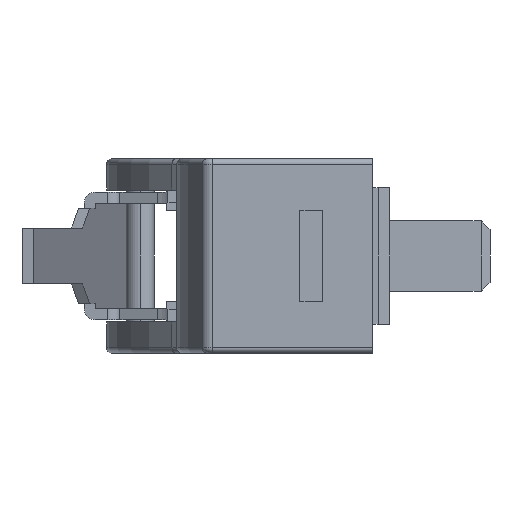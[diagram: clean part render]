
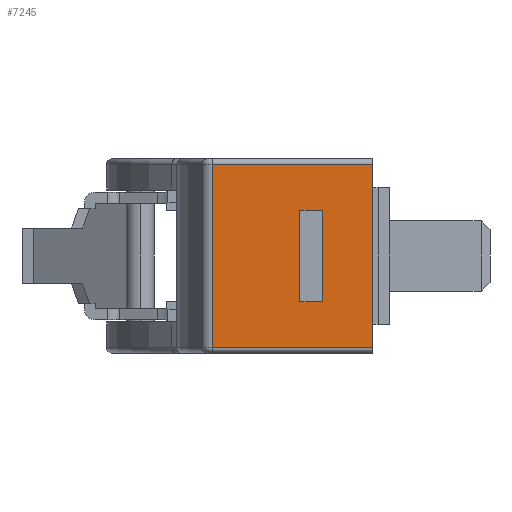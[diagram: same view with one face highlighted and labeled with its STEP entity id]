
A CAD part, left-side view. The second image highlights one B-rep face of the part: STEP entity #7245.
In plain terms, the highlighted planar face has unit normal (-1, 0, 0).
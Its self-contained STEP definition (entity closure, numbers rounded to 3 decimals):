
#894 = CARTESIAN_POINT ( 'NONE',  ( -35.2, 2.7, 4.1 ) ) ;
#895 = CARTESIAN_POINT ( 'NONE',  ( -35.2, 10.561, -8.2 ) ) ;
#896 = CARTESIAN_POINT ( 'NONE',  ( -35.2, 0.7, 4.1 ) ) ;
#897 = CARTESIAN_POINT ( 'NONE',  ( -35.2, 2.7, -4.1 ) ) ;
#898 = LINE ( 'NONE', #897, #920 ) ;
#909 = DIRECTION ( 'NONE',  ( 0., 0., 1. ) ) ;
#910 = VECTOR ( 'NONE', #909, 1000. ) ;
#919 = DIRECTION ( 'NONE',  ( 0., 1., 0. ) ) ;
#920 = VECTOR ( 'NONE', #919, 1000. ) ;
#921 = CARTESIAN_POINT ( 'NONE',  ( -35.2, 10.561, 8.2 ) ) ;
#992 = CARTESIAN_POINT ( 'NONE',  ( -35.2, 2.7, -4.1 ) ) ;
#993 = CARTESIAN_POINT ( 'NONE',  ( -35.2, 0.7, -4.1 ) ) ;
#994 = DIRECTION ( 'NONE',  ( 0., 0., -1. ) ) ;
#995 = VECTOR ( 'NONE', #994, 1000. ) ;
#996 = CARTESIAN_POINT ( 'NONE',  ( -35.2, 0.7, 4.1 ) ) ;
#997 = LINE ( 'NONE', #996, #995 ) ;
#1038 = DIRECTION ( 'NONE',  ( 0., 0., -1. ) ) ;
#1039 = VECTOR ( 'NONE', #1038, 1000. ) ;
#1040 = CARTESIAN_POINT ( 'NONE',  ( -35.2, 10.561, 8.7 ) ) ;
#1041 = LINE ( 'NONE', #1040, #1039 ) ;
#1085 = CARTESIAN_POINT ( 'NONE',  ( -35.2, 2.7, 4.1 ) ) ;
#1086 = LINE ( 'NONE', #1085, #910 ) ;
#1088 = CARTESIAN_POINT ( 'NONE',  ( -35.2, -3.8, -8.2 ) ) ;
#3017 = DIRECTION ( 'NONE',  ( 0., 0., -1. ) ) ;
#3018 = DIRECTION ( 'NONE',  ( 1., 0., 0. ) ) ;
#3019 = CARTESIAN_POINT ( 'NONE',  ( -35.2, 10.561, 8.7 ) ) ;
#3021 = AXIS2_PLACEMENT_3D ( 'NONE', #3019, #3018, #3017 ) ;
#3022 = PLANE ( 'NONE',  #3021 ) ;
#3023 = FACE_BOUND ( 'NONE', #7258, .T. ) ;
#3024 = FACE_OUTER_BOUND ( 'NONE', #7364, .T. ) ;
#3067 = CARTESIAN_POINT ( 'NONE',  ( -35.2, 2.7, 4.1 ) ) ;
#3068 = LINE ( 'NONE', #3067, #3086 ) ;
#3069 = DIRECTION ( 'NONE',  ( 0., 1., 0. ) ) ;
#3070 = VECTOR ( 'NONE', #3069, 1000. ) ;
#3071 = CARTESIAN_POINT ( 'NONE',  ( -35.2, 10.561, 8.2 ) ) ;
#3072 = LINE ( 'NONE', #3071, #3070 ) ;
#3085 = DIRECTION ( 'NONE',  ( 0., -1., 0. ) ) ;
#3086 = VECTOR ( 'NONE', #3085, 1000. ) ;
#3087 = CARTESIAN_POINT ( 'NONE',  ( -35.2, -3.8, 8.2 ) ) ;
#3088 = DIRECTION ( 'NONE',  ( 0., 0., -1. ) ) ;
#3089 = VECTOR ( 'NONE', #3088, 1000. ) ;
#3090 = CARTESIAN_POINT ( 'NONE',  ( -35.2, -3.8, 8.7 ) ) ;
#3091 = LINE ( 'NONE', #3090, #3089 ) ;
#3092 = DIRECTION ( 'NONE',  ( 0., -1., 0. ) ) ;
#3093 = VECTOR ( 'NONE', #3092, 1000. ) ;
#3094 = CARTESIAN_POINT ( 'NONE',  ( -35.2, 10.561, -8.2 ) ) ;
#3095 = LINE ( 'NONE', #3094, #3093 ) ;
#7237 = ORIENTED_EDGE ( 'NONE', *, *, #7239, .T. ) ;
#7239 = EDGE_CURVE ( 'NONE', #7276, #7375, #3095, .T. ) ;
#7240 = ORIENTED_EDGE ( 'NONE', *, *, #7241, .F. ) ;
#7241 = EDGE_CURVE ( 'NONE', #7242, #7375, #3091, .T. ) ;
#7242 = VERTEX_POINT ( 'NONE', #3087 ) ;
#7245 = ADVANCED_FACE ( 'NONE', ( #3024, #3023 ), #3022, .F. ) ;
#7247 = ORIENTED_EDGE ( 'NONE', *, *, #7248, .T. ) ;
#7248 = EDGE_CURVE ( 'NONE', #7242, #7277, #3072, .T. ) ;
#7249 = ORIENTED_EDGE ( 'NONE', *, *, #7250, .T. ) ;
#7250 = EDGE_CURVE ( 'NONE', #7268, #7275, #3068, .T. ) ;
#7258 = EDGE_LOOP ( 'NONE', ( #7249, #7365, #7271, #7273 ) ) ;
#7268 = VERTEX_POINT ( 'NONE', #894 ) ;
#7271 = ORIENTED_EDGE ( 'NONE', *, *, #7272, .T. ) ;
#7272 = EDGE_CURVE ( 'NONE', #7367, #7368, #898, .T. ) ;
#7273 = ORIENTED_EDGE ( 'NONE', *, *, #7376, .T. ) ;
#7275 = VERTEX_POINT ( 'NONE', #896 ) ;
#7276 = VERTEX_POINT ( 'NONE', #895 ) ;
#7277 = VERTEX_POINT ( 'NONE', #921 ) ;
#7364 = EDGE_LOOP ( 'NONE', ( #7373, #7237, #7240, #7247 ) ) ;
#7365 = ORIENTED_EDGE ( 'NONE', *, *, #7366, .T. ) ;
#7366 = EDGE_CURVE ( 'NONE', #7275, #7367, #997, .T. ) ;
#7367 = VERTEX_POINT ( 'NONE', #993 ) ;
#7368 = VERTEX_POINT ( 'NONE', #992 ) ;
#7373 = ORIENTED_EDGE ( 'NONE', *, *, #7374, .T. ) ;
#7374 = EDGE_CURVE ( 'NONE', #7277, #7276, #1041, .T. ) ;
#7375 = VERTEX_POINT ( 'NONE', #1088 ) ;
#7376 = EDGE_CURVE ( 'NONE', #7368, #7268, #1086, .T. ) ;
